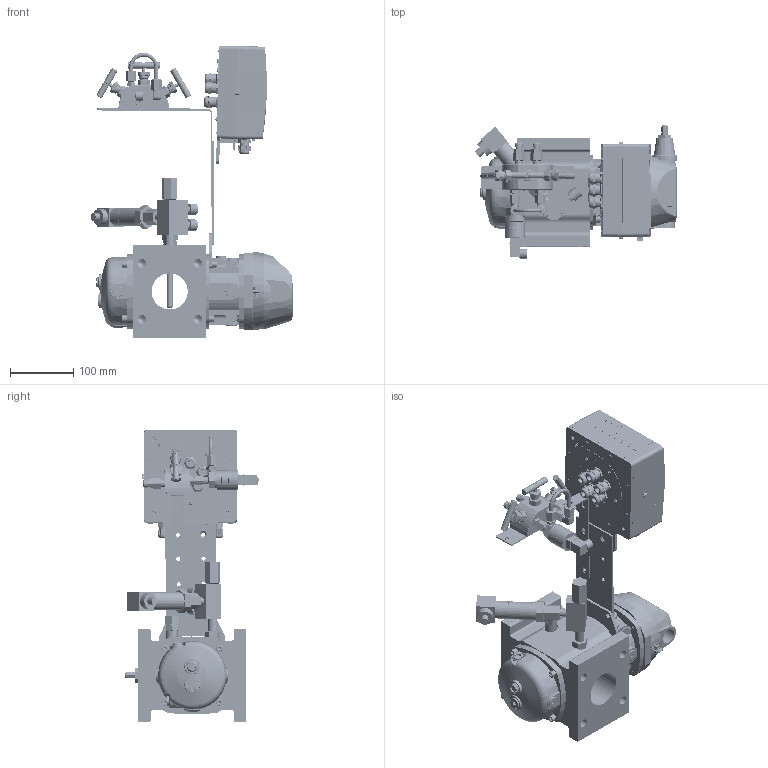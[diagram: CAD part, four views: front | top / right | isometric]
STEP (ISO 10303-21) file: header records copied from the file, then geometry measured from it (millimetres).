
FILE_DESCRIPTION(('STEP AP242'), '1');
FILE_NAME('16 áåç èñòîðèè', '', ('UNSPECIFIED'), ('UNSPECIFIED'), 'C3D Converter', 'C3D Toolkit', '');
FILE_SCHEMA(('AP242_MANAGED_MODEL_BASED_3D_ENGINEERING_MIM_LF { 1 0 10303 442 1 1 4 }'));
Length unit declared in the file: millimetre
Bounding box: 319.59 x 210.57 x 461.86 mm (x, y, z)
Volume: 4838167.3 mm3; surface area: 929781.3 mm2
Topology: 156 solids, 158 shells, 33183 faces, 90189 edges, 59621 vertices
Faces by surface type: plane 15480, extrusion 11492, cylinder 4318, cone 746, bspline 680, torus 393, sphere 74
Full cylindrical faces by diameter (mm): 1.5 x1, 1.95 x3, 2 x12, 2.459 x22, 2.5 x4, 2.791 x2, 2.9 x4, 3 x30, 3.2 x13, 3.242 x8, 3.3 x6, 3.45 x7, 3.5 x16, 4 x18, 4.1 x8, 4.134 x5, 4.2 x12, 4.4 x1, 4.917 x11, 5 x26, 5.2 x4, 5.5 x20, 5.6 x20, 6 x26, 6.2 x2, 6.4 x14, 6.5 x16, 6.6 x4, 7 x18, 8 x22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
Entity records: 1419828 total; most frequent: CARTESIAN_POINT 383134, ORIENTED_EDGE 177442, DIRECTION 126762, EDGE_CURVE 88721, VECTOR 63368, VERTEX_POINT 59564, LINE 51876, B_SPLINE_CURVE_WITH_KNOTS 37447
